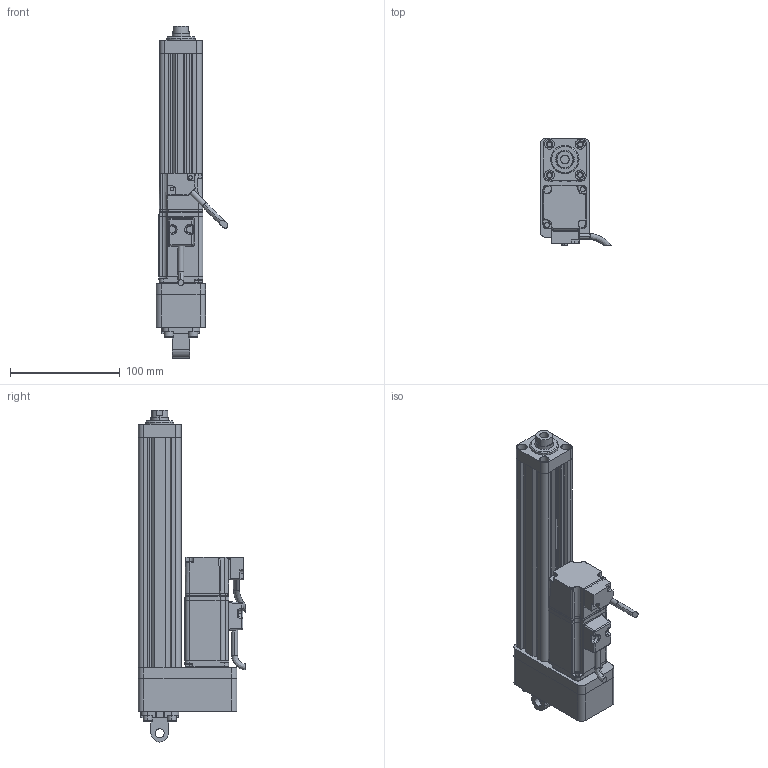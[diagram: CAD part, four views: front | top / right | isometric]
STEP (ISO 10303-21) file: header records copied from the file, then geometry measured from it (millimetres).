
FILE_DESCRIPTION (( 'STEP AP214' ), '1' );
FILE_NAME ('039-S150-D02-B-M5-C2-2.STEP', '2021-03-02T05:04:29', ( '' ), ( '' ), 'SwSTEP 2.0', 'SolidWorks 2018', '' );
FILE_SCHEMA (( 'AUTOMOTIVE_DESIGN' ));
Length unit declared in the file: millimetre
Products named in the file (8): CMC039-GT; F-ACE20CA_ACE_; CMC039-LJB; 039-S150-D02-B-M5-C2-2; CMC039-HXT; CMC039-FL; CMC039-DT; ECMA-CX0401ES-40框號系列機種-100W低慣量系列
Assembly tree (7 placements, depth 2):
  039-S150-D02-B-M5-C2-2
    CMC039-GT
    CMC039-LJB
    CMC039-FL
    CMC039-DT
    ECMA-CX0401ES-40框號系列機種-100W低慣量系列
    CMC039-HXT
    F-ACE20CA_ACE_
Bounding box: 65.33 x 97.89 x 303 mm (x, y, z)
Volume: 464258.8 mm3; surface area: 148650.9 mm2
Topology: 7 solids, 15 shells, 762 faces, 1992 edges, 1249 vertices
Faces by surface type: cylinder 321, plane 302, bspline 92, cone 47
Entity records: 29754 total; most frequent: CARTESIAN_POINT 11639, ORIENTED_EDGE 3918, DIRECTION 3319, EDGE_CURVE 1959, VERTEX_POINT 1249, AXIS2_PLACEMENT_3D 1176, LINE 967, VECTOR 967
